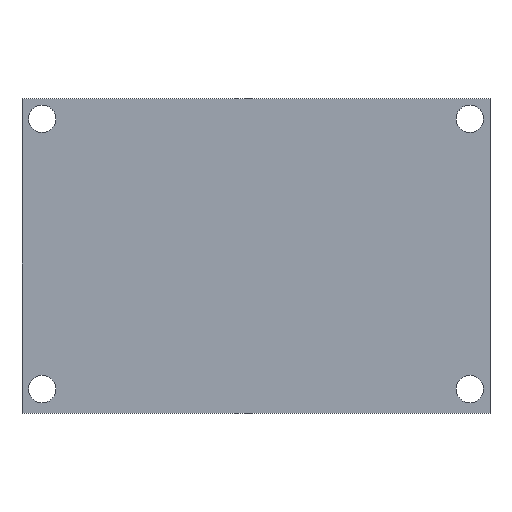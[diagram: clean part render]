
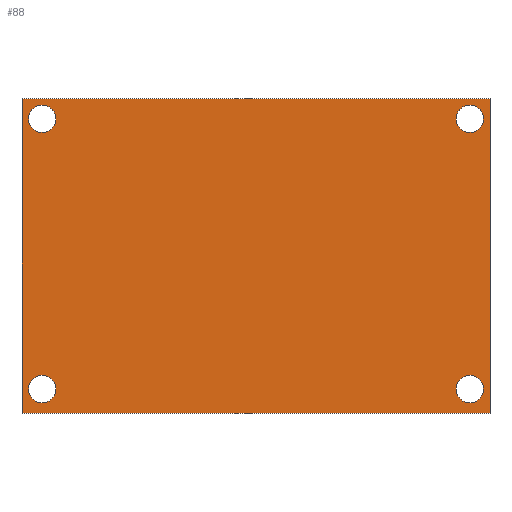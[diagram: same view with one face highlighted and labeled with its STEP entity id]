
A CAD part, top view. The second image highlights one B-rep face of the part: STEP entity #88.
In plain terms, the highlighted planar face has unit normal (0, 0, 1).
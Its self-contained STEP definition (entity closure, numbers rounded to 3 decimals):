
#24 = VERTEX_POINT('',#25);
#25 = CARTESIAN_POINT('',(114.,68.5,43.2));
#40 = VERTEX_POINT('',#41);
#41 = CARTESIAN_POINT('',(114.,107.5,43.2));
#47 = EDGE_CURVE('',#24,#40,#48,.T.);
#48 = LINE('',#49,#50);
#49 = CARTESIAN_POINT('',(114.,68.5,43.2));
#50 = VECTOR('',#51,1.);
#51 = DIRECTION('',(-0.,1.,0.));
#70 = EDGE_CURVE('',#24,#71,#73,.T.);
#71 = VERTEX_POINT('',#72);
#72 = CARTESIAN_POINT('',(172.,68.5,43.2));
#73 = LINE('',#74,#75);
#74 = CARTESIAN_POINT('',(114.,68.5,43.2));
#75 = VECTOR('',#76,1.);
#76 = DIRECTION('',(1.,0.,-0.));
#88 = ADVANCED_FACE('',(#89,#107,#118,#129,#140),#151,.T.);
#89 = FACE_BOUND('',#90,.T.);
#90 = EDGE_LOOP('',(#91,#92,#93,#101));
#91 = ORIENTED_EDGE('',*,*,#47,.F.);
#92 = ORIENTED_EDGE('',*,*,#70,.T.);
#93 = ORIENTED_EDGE('',*,*,#94,.T.);
#94 = EDGE_CURVE('',#71,#95,#97,.T.);
#95 = VERTEX_POINT('',#96);
#96 = CARTESIAN_POINT('',(172.,107.5,43.2));
#97 = LINE('',#98,#99);
#98 = CARTESIAN_POINT('',(172.,68.5,43.2));
#99 = VECTOR('',#100,1.);
#100 = DIRECTION('',(-0.,1.,0.));
#101 = ORIENTED_EDGE('',*,*,#102,.F.);
#102 = EDGE_CURVE('',#40,#95,#103,.T.);
#103 = LINE('',#104,#105);
#104 = CARTESIAN_POINT('',(114.,107.5,43.2));
#105 = VECTOR('',#106,1.);
#106 = DIRECTION('',(1.,0.,-0.));
#107 = FACE_BOUND('',#108,.T.);
#108 = EDGE_LOOP('',(#109));
#109 = ORIENTED_EDGE('',*,*,#110,.F.);
#110 = EDGE_CURVE('',#111,#111,#113,.T.);
#111 = VERTEX_POINT('',#112);
#112 = CARTESIAN_POINT('',(118.2,71.5,43.2));
#113 = CIRCLE('',#114,1.7);
#114 = AXIS2_PLACEMENT_3D('',#115,#116,#117);
#115 = CARTESIAN_POINT('',(116.5,71.5,43.2));
#116 = DIRECTION('',(0.,0.,1.));
#117 = DIRECTION('',(1.,0.,-0.));
#118 = FACE_BOUND('',#119,.T.);
#119 = EDGE_LOOP('',(#120));
#120 = ORIENTED_EDGE('',*,*,#121,.F.);
#121 = EDGE_CURVE('',#122,#122,#124,.T.);
#122 = VERTEX_POINT('',#123);
#123 = CARTESIAN_POINT('',(171.2,71.5,43.2));
#124 = CIRCLE('',#125,1.7);
#125 = AXIS2_PLACEMENT_3D('',#126,#127,#128);
#126 = CARTESIAN_POINT('',(169.5,71.5,43.2));
#127 = DIRECTION('',(0.,0.,1.));
#128 = DIRECTION('',(1.,0.,-0.));
#129 = FACE_BOUND('',#130,.T.);
#130 = EDGE_LOOP('',(#131));
#131 = ORIENTED_EDGE('',*,*,#132,.F.);
#132 = EDGE_CURVE('',#133,#133,#135,.T.);
#133 = VERTEX_POINT('',#134);
#134 = CARTESIAN_POINT('',(118.2,105.,43.2));
#135 = CIRCLE('',#136,1.7);
#136 = AXIS2_PLACEMENT_3D('',#137,#138,#139);
#137 = CARTESIAN_POINT('',(116.5,105.,43.2));
#138 = DIRECTION('',(0.,0.,1.));
#139 = DIRECTION('',(1.,0.,-0.));
#140 = FACE_BOUND('',#141,.T.);
#141 = EDGE_LOOP('',(#142));
#142 = ORIENTED_EDGE('',*,*,#143,.F.);
#143 = EDGE_CURVE('',#144,#144,#146,.T.);
#144 = VERTEX_POINT('',#145);
#145 = CARTESIAN_POINT('',(171.2,105.,43.2));
#146 = CIRCLE('',#147,1.7);
#147 = AXIS2_PLACEMENT_3D('',#148,#149,#150);
#148 = CARTESIAN_POINT('',(169.5,105.,43.2));
#149 = DIRECTION('',(0.,0.,1.));
#150 = DIRECTION('',(1.,0.,-0.));
#151 = PLANE('',#152);
#152 = AXIS2_PLACEMENT_3D('',#153,#154,#155);
#153 = CARTESIAN_POINT('',(114.,68.5,43.2));
#154 = DIRECTION('',(0.,0.,1.));
#155 = DIRECTION('',(1.,0.,-0.));
